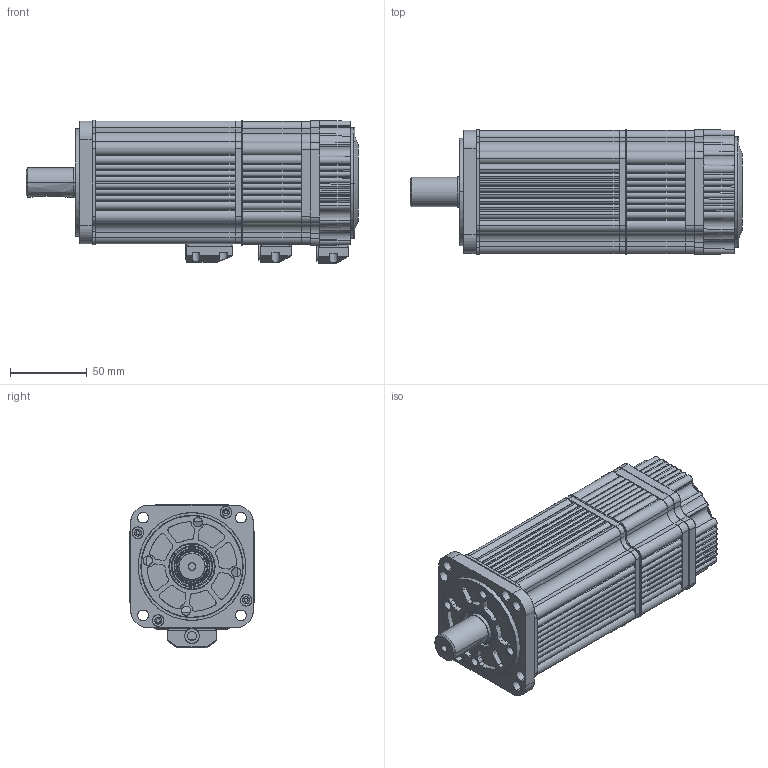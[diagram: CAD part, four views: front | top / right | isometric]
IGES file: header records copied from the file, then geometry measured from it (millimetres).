
Start section: SolidWorks IGES file using analytic representation for surfaces
Global section: file name: E:\est2012\d\17年任务\2017.01.04 外海需求电机3D图升级归档\EMJ-08APB24\EMJ-08(APB24,AFB24)with holding brake.IGS,15HSolidWorks; native system: 2015; preprocessor: SolidWorks 2015; author: hongyunting; date: 170105.151727; units: millimetre
Bounding box: 216 x 81.19 x 93.38 mm (x, y, z)
Surface area: 98613.6 mm2 (no closed solid volume)
Topology: 0 solids, 0 shells, 745 faces, 12971 edges, 12971 vertices
Faces by surface type: revolution 498, bspline 247
